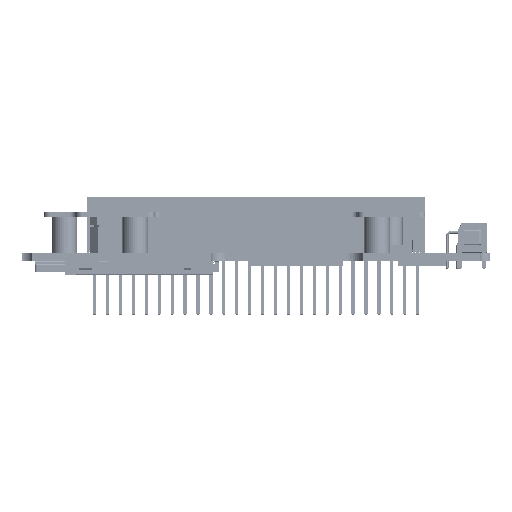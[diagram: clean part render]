
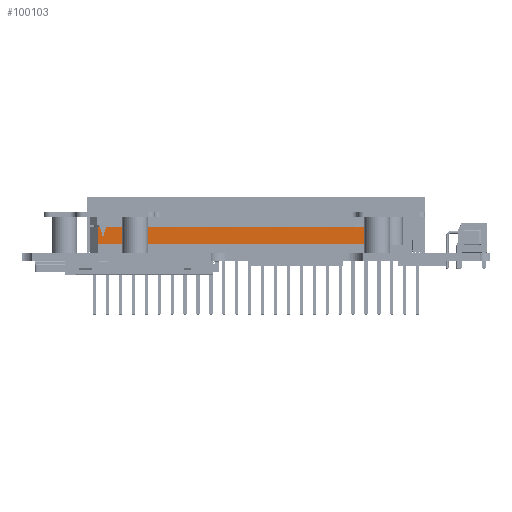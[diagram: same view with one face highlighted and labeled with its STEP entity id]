
A CAD part, front view. The second image highlights one B-rep face of the part: STEP entity #100103.
In plain terms, the highlighted planar face has unit normal (0, -1, 0).
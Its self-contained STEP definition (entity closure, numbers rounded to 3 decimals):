
#23025=DIRECTION('',(1.,0.,0.));
#23026=VECTOR('',#23025,50.8);
#23027=CARTESIAN_POINT('',(16.52,72.715,6.7));
#23028=LINE('',#23027,#23026);
#23037=DIRECTION('',(1.,0.,0.));
#23038=VECTOR('',#23037,0.45);
#23039=CARTESIAN_POINT('',(14.87,72.715,6.7));
#23040=LINE('',#23039,#23038);
#23149=CARTESIAN_POINT('',(14.87,72.715,6.7));
#23150=CARTESIAN_POINT('',(14.87,72.715,6.328));
#23151=CARTESIAN_POINT('',(14.872,72.713,5.583));
#23152=CARTESIAN_POINT('',(14.872,72.713,4.467));
#23153=CARTESIAN_POINT('',(14.87,72.715,3.722));
#23154=CARTESIAN_POINT('',(14.87,72.715,3.35));
#23156=DIRECTION('',(-0.287,0.,0.958));
#23157=VECTOR('',#23156,2.088);
#23158=CARTESIAN_POINT('',(15.92,72.715,4.7));
#23159=LINE('',#23158,#23157);
#23160=DIRECTION('',(-0.287,0.,-0.958));
#23161=VECTOR('',#23160,2.088);
#23162=CARTESIAN_POINT('',(16.52,72.715,6.7));
#23163=LINE('',#23162,#23161);
#23164=DIRECTION('',(0.,0.,1.));
#23165=VECTOR('',#23164,3.35);
#23166=CARTESIAN_POINT('',(67.32,72.715,3.35));
#23167=LINE('',#23166,#23165);
#23168=DIRECTION('',(1.,0.,0.));
#23169=VECTOR('',#23168,52.45);
#23170=CARTESIAN_POINT('',(14.87,72.715,3.35));
#23171=LINE('',#23170,#23169);
#48414=CARTESIAN_POINT('',(14.87,72.715,6.7));
#48415=CARTESIAN_POINT('',(15.32,72.715,6.7));
#48416=VERTEX_POINT('',#48414);
#48417=VERTEX_POINT('',#48415);
#48418=CARTESIAN_POINT('',(16.52,72.715,6.7));
#48419=CARTESIAN_POINT('',(67.32,72.715,6.7));
#48420=VERTEX_POINT('',#48418);
#48421=VERTEX_POINT('',#48419);
#48422=CARTESIAN_POINT('',(15.92,72.715,4.7));
#48423=VERTEX_POINT('',#48422);
#48432=VERTEX_POINT('',#23154);
#48433=CARTESIAN_POINT('',(67.32,72.715,3.35));
#48434=VERTEX_POINT('',#48433);
#100086=CARTESIAN_POINT('',(16.886,72.714,4.498));
#100087=DIRECTION('',(0.,-1.,0.));
#100088=DIRECTION('',(1.,0.,0.));
#100089=AXIS2_PLACEMENT_3D('',#100086,#100087,#100088);
#100090=PLANE('',#100089);
#100091=ORIENTED_EDGE('',*,*,#99730,.F.);
#100092=ORIENTED_EDGE('',*,*,#99913,.T.);
#100094=ORIENTED_EDGE('',*,*,#100093,.F.);
#100096=ORIENTED_EDGE('',*,*,#100095,.F.);
#100097=ORIENTED_EDGE('',*,*,#99905,.T.);
#100098=ORIENTED_EDGE('',*,*,#99691,.F.);
#100100=ORIENTED_EDGE('',*,*,#100099,.F.);
#100101=EDGE_LOOP('',(#100091,#100092,#100094,#100096,#100097,#100098,#100100));
#100102=FACE_OUTER_BOUND('',#100101,.F.);
#23155=B_SPLINE_CURVE_WITH_KNOTS('',3,(#23149,#23150,#23151,#23152,#23153,
#23154),.UNSPECIFIED.,.F.,.F.,(4,1,1,4),(0.,0.333,
0.667,1.),.UNSPECIFIED.);
#99691=EDGE_CURVE('',#48434,#48421,#23167,.T.);
#99730=EDGE_CURVE('',#48416,#48432,#23155,.T.);
#99905=EDGE_CURVE('',#48420,#48421,#23028,.T.);
#99913=EDGE_CURVE('',#48416,#48417,#23040,.T.);
#100093=EDGE_CURVE('',#48423,#48417,#23159,.T.);
#100095=EDGE_CURVE('',#48420,#48423,#23163,.T.);
#100099=EDGE_CURVE('',#48432,#48434,#23171,.T.);
#100103=ADVANCED_FACE('',(#100102),#100090,.T.);
